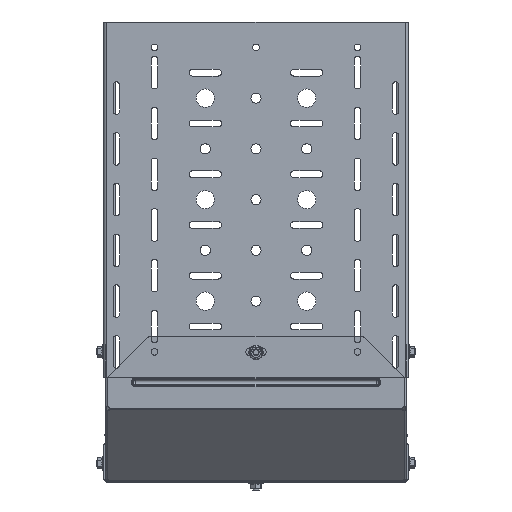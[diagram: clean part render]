
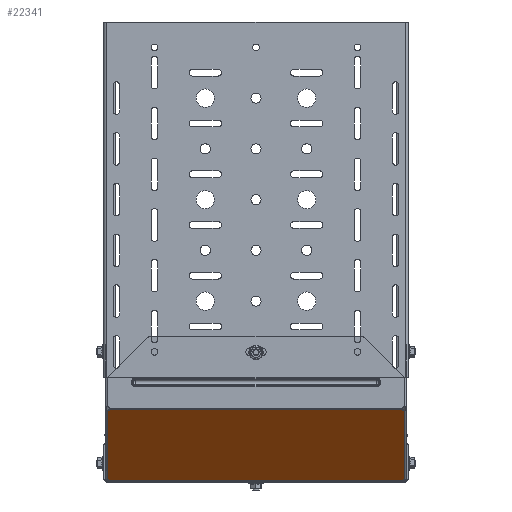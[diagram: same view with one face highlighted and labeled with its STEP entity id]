
A CAD part, front view. The second image highlights one B-rep face of the part: STEP entity #22341.
In plain terms, the highlighted planar face has unit normal (0, -0.707, -0.707) as drawn and (-0.707, -0.707, 0) by its records, which use the part's own axes.
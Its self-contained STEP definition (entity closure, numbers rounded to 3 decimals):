
#952 = DIRECTION ( 'NONE',  ( 0.707, -0.707, 0. ) ) ;
#1027 = ORIENTED_EDGE ( 'NONE', *, *, #18924, .T. ) ;
#1430 = DIRECTION ( 'NONE',  ( 0.707, -0.707, 0. ) ) ;
#1494 = ORIENTED_EDGE ( 'NONE', *, *, #15905, .T. ) ;
#1674 = CARTESIAN_POINT ( 'NONE',  ( 34.648, -36.062, -146. ) ) ;
#2145 = CARTESIAN_POINT ( 'NONE',  ( 34.648, -36.062, 144.502 ) ) ;
#3412 = AXIS2_PLACEMENT_3D ( 'NONE', #17515, #5179, #19553 ) ;
#3456 = EDGE_CURVE ( 'NONE', #5684, #19611, #17536, .T. ) ;
#3725 = DIRECTION ( 'NONE',  ( 0.707, -0.707, 0. ) ) ;
#3987 = CARTESIAN_POINT ( 'NONE',  ( -36.062, 34.648, 146. ) ) ;
#4019 = VERTEX_POINT ( 'NONE', #4572 ) ;
#4070 = LINE ( 'NONE', #1674, #14472 ) ;
#4572 = CARTESIAN_POINT ( 'NONE',  ( -36.062, 34.648, 144.502 ) ) ;
#4628 = EDGE_CURVE ( 'NONE', #23985, #19611, #23888, .T. ) ;
#4757 = AXIS2_PLACEMENT_3D ( 'NONE', #17914, #7723, #22032 ) ;
#4840 = DIRECTION ( 'NONE',  ( -0.707, 0.707, 0. ) ) ;
#5179 = DIRECTION ( 'NONE',  ( 0.707, 0.707, 0. ) ) ;
#5684 = VERTEX_POINT ( 'NONE', #8922 ) ;
#6348 = EDGE_CURVE ( 'NONE', #14264, #13071, #6497, .T. ) ;
#6497 = CIRCLE ( 'NONE', #3412, 2.5 ) ;
#7639 = FACE_OUTER_BOUND ( 'NONE', #18713, .T. ) ;
#7723 = DIRECTION ( 'NONE',  ( -0.707, -0.707, 0. ) ) ;
#7978 = AXIS2_PLACEMENT_3D ( 'NONE', #26040, #13815, #1430 ) ;
#8061 = ORIENTED_EDGE ( 'NONE', *, *, #21810, .F. ) ;
#8203 = VECTOR ( 'NONE', #23094, 1000. ) ;
#8578 = AXIS2_PLACEMENT_3D ( 'NONE', #15865, #13835, #18961 ) ;
#8789 = CIRCLE ( 'NONE', #7978, 2.5 ) ;
#8922 = CARTESIAN_POINT ( 'NONE',  ( 33.548, -34.962, -146. ) ) ;
#9336 = CARTESIAN_POINT ( 'NONE',  ( 33.548, -34.962, 146. ) ) ;
#10382 = VECTOR ( 'NONE', #952, 1000. ) ;
#10660 = EDGE_CURVE ( 'NONE', #19011, #4019, #12910, .T. ) ;
#12573 = CARTESIAN_POINT ( 'NONE',  ( 35.204, -36.618, -146.876 ) ) ;
#12910 = CIRCLE ( 'NONE', #8578, 2.5 ) ;
#13071 = VERTEX_POINT ( 'NONE', #16247 ) ;
#13174 = LINE ( 'NONE', #3987, #19166 ) ;
#13815 = DIRECTION ( 'NONE',  ( 0.707, 0.707, 0. ) ) ;
#13825 = DIRECTION ( 'NONE',  ( 0.707, 0.707, 0. ) ) ;
#13835 = DIRECTION ( 'NONE',  ( 0.707, 0.707, 0. ) ) ;
#14264 = VERTEX_POINT ( 'NONE', #18336 ) ;
#14472 = VECTOR ( 'NONE', #3725, 1000. ) ;
#14578 = ORIENTED_EDGE ( 'NONE', *, *, #10660, .T. ) ;
#15412 = CARTESIAN_POINT ( 'NONE',  ( 34.648, -36.062, 146. ) ) ;
#15735 = ORIENTED_EDGE ( 'NONE', *, *, #4628, .F. ) ;
#15865 = CARTESIAN_POINT ( 'NONE',  ( -36.618, 35.204, 146.876 ) ) ;
#15905 = EDGE_CURVE ( 'NONE', #23985, #17045, #8789, .T. ) ;
#16247 = CARTESIAN_POINT ( 'NONE',  ( -34.962, 33.548, -146. ) ) ;
#16409 = ORIENTED_EDGE ( 'NONE', *, *, #25713, .F. ) ;
#17045 = VERTEX_POINT ( 'NONE', #9336 ) ;
#17515 = CARTESIAN_POINT ( 'NONE',  ( -36.618, 35.204, -146.876 ) ) ;
#17536 = CIRCLE ( 'NONE', #17839, 2.5 ) ;
#17839 = AXIS2_PLACEMENT_3D ( 'NONE', #12573, #13825, #4840 ) ;
#17914 = CARTESIAN_POINT ( 'NONE',  ( -36.062, 34.648, 146. ) ) ;
#17955 = ORIENTED_EDGE ( 'NONE', *, *, #3456, .T. ) ;
#18336 = CARTESIAN_POINT ( 'NONE',  ( -36.062, 34.648, -144.502 ) ) ;
#18454 = CARTESIAN_POINT ( 'NONE',  ( -34.962, 33.548, 146. ) ) ;
#18661 = LINE ( 'NONE', #15412, #10382 ) ;
#18713 = EDGE_LOOP ( 'NONE', ( #15735, #1494, #16409, #14578, #8061, #25020, #1027, #17955 ) ) ;
#18924 = EDGE_CURVE ( 'NONE', #13071, #5684, #4070, .T. ) ;
#18961 = DIRECTION ( 'NONE',  ( -0.707, 0.707, 0. ) ) ;
#19011 = VERTEX_POINT ( 'NONE', #18454 ) ;
#19166 = VECTOR ( 'NONE', #20370, 1000. ) ;
#19553 = DIRECTION ( 'NONE',  ( -0.707, 0.707, 0. ) ) ;
#19611 = VERTEX_POINT ( 'NONE', #23171 ) ;
#19886 = PLANE ( 'NONE',  #4757 ) ;
#20370 = DIRECTION ( 'NONE',  ( 0., 0., 1. ) ) ;
#21810 = EDGE_CURVE ( 'NONE', #14264, #4019, #13174, .T. ) ;
#22032 = DIRECTION ( 'NONE',  ( 0.707, -0.707, 0. ) ) ;
#22341 = ADVANCED_FACE ( 'NONE', ( #7639 ), #19886, .T. ) ;
#23094 = DIRECTION ( 'NONE',  ( 0., 0., -1. ) ) ;
#23171 = CARTESIAN_POINT ( 'NONE',  ( 34.648, -36.062, -144.502 ) ) ;
#23198 = CARTESIAN_POINT ( 'NONE',  ( 34.648, -36.062, 146. ) ) ;
#23888 = LINE ( 'NONE', #23198, #8203 ) ;
#23985 = VERTEX_POINT ( 'NONE', #2145 ) ;
#25020 = ORIENTED_EDGE ( 'NONE', *, *, #6348, .T. ) ;
#25713 = EDGE_CURVE ( 'NONE', #19011, #17045, #18661, .T. ) ;
#26040 = CARTESIAN_POINT ( 'NONE',  ( 35.204, -36.618, 146.876 ) ) ;
